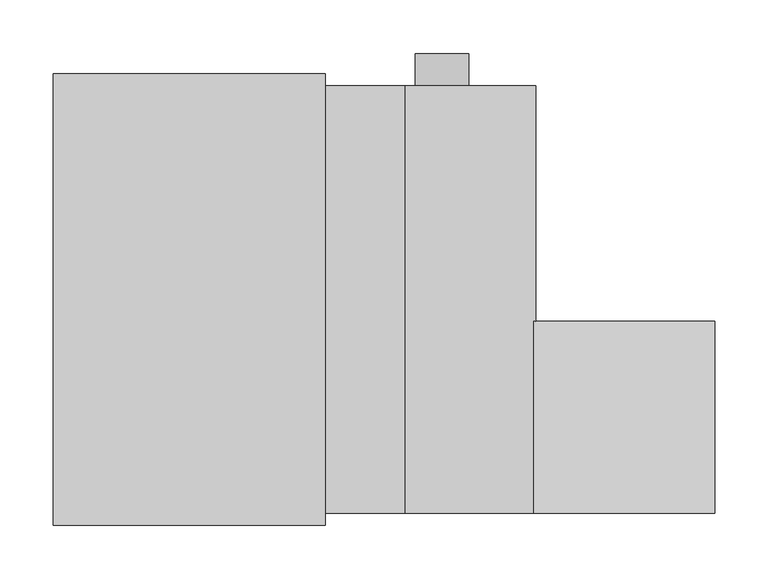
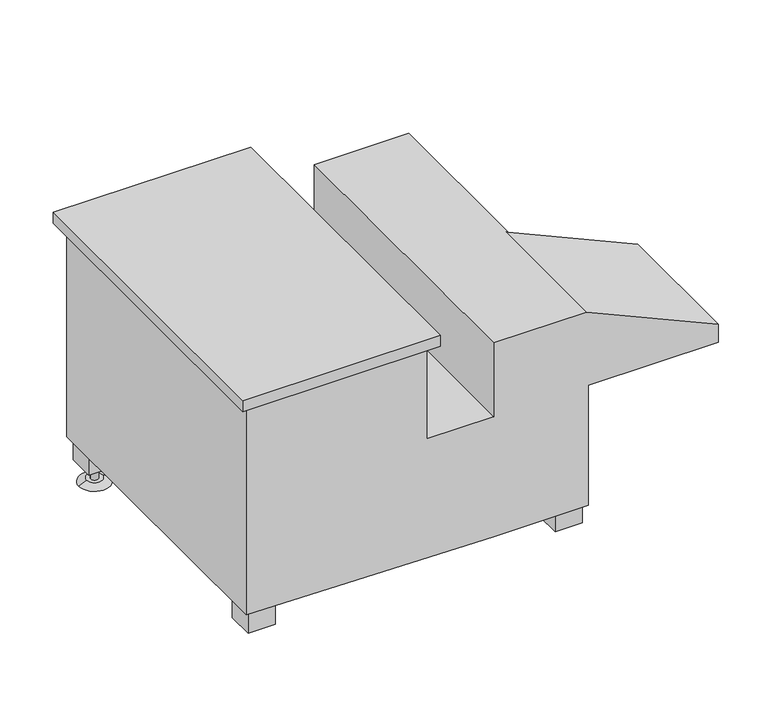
"""IFC4 building model written with IfcOpenShell, lengths in millimetres: unitary equipment geometry, ME_ST_UN_AGC grease capture_ACO : AGC 050 Push-fit HT / ACO pipe (OD 50mm)."""

from ifc_helpers import new_model, si_unit, point, frame, frame_2d, origin, place, context, project, spatial, polyline, circle_curve, trimmed, segment, composite_curve, outline, extrude, source, transform, mapped, element, save
from ifc_brep_helpers import plane_surface, cylinder_surface, revolved_surface, advanced_brep


def unitary_equipment_8320e889(model_context):
    return source(origin(), model_context, "Body", "SolidModel", [
        advanced_brep(
        [(220.0, -200.0, 213.0), (220.0, -200.0, 50.0), (220.0, -22.3913393, 25.0), (220.0, 200.0, 25.0), (220.0, 200.0, 313.5), (220.0, -20.5, 313.5), (220.0, -20.5, 312.6841956), (220.0, -20.5, 213.0), (98.0, -22.3913393, 25.0), (98.0, 200.0, 25.0), (-220.0, 200.0, 55.0), (-220.0, -200.0, 55.0), (-220.0, -200.0, 342.0), (-220.0, 200.0, 342.0), (98.0, -200.0, 50.0), (387.0, -200.0, 213.0), (387.0, -200.0, 238.0), (218.1757942, -200.0, 313.5), (98.0, -200.0, 313.5), (98.0, -200.0, 213.0), (12.0, -200.0, 213.0), (12.0, -200.0, 342.0), (-211.0477339, -195.0, 54.1554466), (-180.0, -195.0, 53.6672747), (-180.0, -177.659288, 51.2264151), (-180.0, -160.0, 51.2264151), (-215.0, -160.0, 54.5283019), (-215.0, -195.0, 54.5283019), (-180.0, 195.0, 51.2264151), (-215.0, 195.0, 54.5283019), (-215.0, 160.0, 54.5283019), (-180.0, 160.0, 51.2264151), (12.0, 200.0, 342.0), (12.0, 200.0, 213.0), (98.0, 200.0, 213.0), (98.0, 200.0, 313.5), (107.0, 200.0, 209.0), (157.0, 200.0, 209.0), (-180.0, -195.0, 25.0), (-215.0, -195.0, 25.0), (-215.0, -160.0, 25.0), (-180.0, -160.0, 25.0), (-180.0, 195.0, 25.0), (-180.0, 160.0, 25.0), (-215.0, 160.0, 25.0), (-215.0, 195.0, 25.0), (180.0, -195.0, 25.0), (180.0, -160.0, 25.0), (215.0, -160.0, 25.0), (215.0, -195.0, 25.0), (215.0, -195.0, 49.2962055), (180.0, -195.0, 49.2962055), (215.0, -160.0, 44.3696439), (180.0, -160.0, 44.3696439), (23.0, 211.0, 357.0), (-231.0, 211.0, 357.0), (-231.0, -211.0, 357.0), (23.0, -211.0, 357.0), (387.0, -20.5, 238.0), (387.0, -20.5, 213.0), (218.1757942, -20.5, 313.5), (23.0, 211.0, 342.0), (23.0, -211.0, 342.0), (-231.0, -211.0, 342.0), (-231.0, 211.0, 342.0), (107.0, 230.0, 209.0), (157.0, 230.0, 209.0)],
        [
            (0, 1),
            (1, 2),
            (2, 3),
            (3, 4),
            (4, 5),
            (5, 6),
            (6, 7),
            (7, 0),
            (2, 8),
            (8, 9),
            (9, 3),
            (10, 11),
            (11, 12),
            (12, 13),
            (13, 10),
            (11, 14),
            (14, 1),
            (0, 15),
            (15, 16),
            (16, 17),
            (17, 18),
            (18, 19),
            (19, 20),
            (20, 21),
            (21, 12),
            (11, 22),
            (22, 23),
            (23, 24),
            (24, 8),
            (8, 14),
            (10, 9),
            (24, 25),
            (25, 26),
            (26, 27),
            (27, 22),
            (28, 29),
            (29, 30),
            (30, 31),
            (31, 28),
            (13, 32),
            (32, 33),
            (33, 34),
            (34, 35),
            (35, 4),
            (36, 37, circle_curve(frame((132.0, 200.0, 209.0), z_axis=(0.0, -1.0, 0.0), x_axis=(1.0, 0.0, 0.0)), 25.0)),
            (37, 36, circle_curve(frame((132.0, 200.0, 209.0), z_axis=(0.0, -1.0, 0.0), x_axis=(1.0, 0.0, 0.0)), 25.0)),
            (33, 20),
            (19, 34),
            (38, 39),
            (39, 40),
            (40, 41),
            (41, 38),
            (42, 43),
            (43, 44),
            (44, 45),
            (45, 42),
            (46, 47),
            (47, 48),
            (48, 49),
            (49, 46),
            (41, 25),
            (23, 38),
            (40, 26),
            (39, 27),
            (45, 29),
            (28, 42),
            (44, 30),
            (43, 31),
            (49, 50),
            (50, 51),
            (51, 46),
            (48, 52),
            (52, 50),
            (47, 53),
            (53, 52),
            (51, 53),
            (54, 55),
            (55, 56),
            (56, 57),
            (57, 54),
            (32, 21),
            (58, 59),
            (59, 7),
            (6, 58),
            (15, 59),
            (58, 16),
            (6, 60),
            (60, 17),
            (60, 5),
            (35, 18),
            (61, 62),
            (62, 63),
            (63, 64),
            (64, 61),
            (54, 61),
            (64, 55),
            (63, 56),
            (62, 57),
            (65, 66, circle_curve(frame((132.0, 230.0, 209.0), z_axis=(0.0, 1.0, 0.0), x_axis=(1.0, 0.0, 0.0)), 25.0)),
            (66, 65, circle_curve(frame((132.0, 230.0, 209.0), z_axis=(0.0, 1.0, 0.0), x_axis=(1.0, 0.0, 0.0)), 25.0)),
            (66, 37),
            (36, 65),
        ],
        [
            plane_surface(frame((220.0, -200.0, 213.0), z_axis=(1.0, 0.0, 0.0), x_axis=(0.0, 0.0, -1.0))),
            plane_surface(frame((220.0, -22.3913393, 25.0), z_axis=(0.0, 0.0, -1.0), x_axis=(-1.0, 0.0, 0.0))),
            plane_surface(frame((-220.0, 0.0, 134.0), z_axis=(-1.0, 0.0, 0.0), x_axis=(0.0, 0.0, -1.0))),
            plane_surface(frame((-220.0, -200.0, 134.0), z_axis=(0.0, -1.0, 0.0), x_axis=(0.0, 0.0, -1.0))),
            plane_surface(frame((-220.0, -200.0, 55.0), z_axis=(-0.015567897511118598, -0.13936796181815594, -0.9901182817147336), x_axis=(0.0, 0.9902382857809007, -0.13938485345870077))),
            plane_surface(frame((-220.0, 0.0, 55.0), z_axis=(-0.09392259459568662, 0.0, -0.9955795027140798), x_axis=(0.0, 1.0, 0.0))),
            plane_surface(frame((-220.0, 200.0, 134.0), z_axis=(0.0, 1.0, 0.0), x_axis=(0.0, 0.0, 1.0))),
            plane_surface(frame((-220.0, 0.0, 213.0), z_axis=(0.0, 0.0, 1.0), x_axis=(0.0, -1.0, 0.0))),
            plane_surface(frame((-180.0, -195.0, 25.0), z_axis=(0.0, 0.0, -1.0), x_axis=(0.0, -1.0, 0.0))),
            plane_surface(frame((-180.0, -195.0, 55.0), z_axis=(1.0, 0.0, 0.0), x_axis=(0.0, 0.0, -1.0))),
            plane_surface(frame((-180.0, -160.0, 55.0), z_axis=(0.0, 1.0, 0.0), x_axis=(0.0, 0.0, -1.0))),
            plane_surface(frame((-215.0, -160.0, 55.0), z_axis=(-1.0, 0.0, 0.0), x_axis=(0.0, 0.0, -1.0))),
            plane_surface(frame((-215.0, -195.0, 55.0), z_axis=(0.0, -1.0, 0.0), x_axis=(0.0, 0.0, -1.0))),
            plane_surface(frame((-180.0, 195.0, 55.0), z_axis=(0.0, 1.0, 0.0), x_axis=(0.0, 0.0, -1.0))),
            plane_surface(frame((-215.0, 195.0, 55.0), z_axis=(-1.0, 0.0, 0.0), x_axis=(0.0, 0.0, -1.0))),
            plane_surface(frame((-215.0, 160.0, 55.0), z_axis=(0.0, -1.0, 0.0), x_axis=(0.0, 0.0, -1.0))),
            plane_surface(frame((-180.0, 160.0, 55.0), z_axis=(1.0, 0.0, 0.0), x_axis=(0.0, 0.0, -1.0))),
            plane_surface(frame((180.0, -195.0, 55.0), z_axis=(0.0, -1.0, 0.0), x_axis=(0.0, 0.0, -1.0))),
            plane_surface(frame((215.0, -195.0, 55.0), z_axis=(1.0, 0.0, 0.0), x_axis=(0.0, 0.0, -1.0))),
            plane_surface(frame((215.0, -160.0, 55.0), z_axis=(0.0, 1.0, 0.0), x_axis=(0.0, 0.0, -1.0))),
            plane_surface(frame((180.0, -160.0, 55.0), z_axis=(-1.0, 0.0, 0.0), x_axis=(0.0, 0.0, -1.0))),
            plane_surface(frame((12.0, -200.0, 357.0), z_axis=(0.0, 0.0, 1.0), x_axis=(0.0, 1.0, 0.0))),
            plane_surface(frame((12.0, -200.0, 213.0), z_axis=(1.0, 0.0, 0.0), x_axis=(0.0, 1.0, 0.0))),
            plane_surface(frame((387.0, -20.5, 238.0), z_axis=(0.0, 1.0, 0.0), x_axis=(0.0, 0.0, -1.0))),
            plane_surface(frame((387.0, -200.0, 213.0), z_axis=(1.0, 0.0, 0.0), x_axis=(0.0, 1.0, 0.0))),
            plane_surface(frame((387.0, -200.0, 238.0), z_axis=(0.408246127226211, 0.0, 0.9128718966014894), x_axis=(0.0, 1.0, 0.0))),
            plane_surface(frame((218.1757942, -200.0, 313.5), z_axis=(0.0, 0.0, 1.0), x_axis=(0.0, 1.0, 0.0))),
            plane_surface(frame((98.0, -200.0, 313.5), z_axis=(-1.0, 0.0, 0.0), x_axis=(0.0, 1.0, 0.0))),
            plane_surface(frame((98.0, -200.0, 213.0), z_axis=(0.0, 0.0, -1.0), x_axis=(0.0, 1.0, 0.0))),
            plane_surface(frame((98.0, -20.5, 313.5), z_axis=(0.0, -1.0, 0.0), x_axis=(-1.0, 0.0, 0.0))),
            plane_surface(frame((220.0, -200.0, 50.0), z_axis=(0.0, -0.13938485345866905, -0.9902382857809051), x_axis=(-1.0, 0.0, 0.0))),
            plane_surface(frame((-231.0, 211.0, 342.0), z_axis=(0.0, 0.0, -1.0), x_axis=(1.0, 0.0, 0.0))),
            plane_surface(frame((23.0, 211.0, 357.0), z_axis=(0.0, 1.0, 0.0), x_axis=(0.0, 0.0, -1.0))),
            plane_surface(frame((-231.0, 211.0, 357.0), z_axis=(-1.0, 0.0, 0.0), x_axis=(0.0, 0.0, -1.0))),
            plane_surface(frame((-231.0, -211.0, 357.0), z_axis=(0.0, -1.0, 0.0), x_axis=(0.0, 0.0, -1.0))),
            plane_surface(frame((23.0, -211.0, 357.0), z_axis=(1.0, 0.0, 0.0), x_axis=(0.0, 0.0, -1.0))),
            plane_surface(frame((157.0, 230.0, 209.0), z_axis=(0.0, 1.0, 0.0), x_axis=(0.0, 0.0, -1.0))),
            cylinder_surface(frame((132.0, 230.0, 209.0), z_axis=(0.0, -1.0, 0.0), x_axis=(1.0, 0.0, 0.0)), 25.0),
        ],
        [
            (0, [[1, 2, 3, 4, 5, 6, 7, 8]]),
            (1, [[-3, 9, 10, 11]]),
            (2, [[12, 13, 14, 15]]),
            (3, [[16, 17, -1, 18, 19, 20, 21, 22, 23, 24, 25, -13]]),
            (4, [[-16, 26, 27, 28, 29, 30]]),
            (5, [[-12, 31, -10, -29, 32, 33, 34, 35, -26], [36, 37, 38, 39]]),
            (6, [[-31, -15, 40, 41, 42, 43, 44, -4, -11], [45, 46]]),
            (7, [[47, -23, 48, -42]]),
            (8, [[49, 50, 51, 52]]),
            (8, [[53, 54, 55, 56]]),
            (8, [[57, 58, 59, 60]]),
            (9, [[-52, 61, -32, -28, 62]]),
            (10, [[-51, 63, -33, -61]]),
            (11, [[-50, 64, -34, -63]]),
            (12, [[-49, -62, -27, -35, -64]]),
            (13, [[-56, 65, -36, 66]]),
            (14, [[-55, 67, -37, -65]]),
            (15, [[-54, 68, -38, -67]]),
            (16, [[-53, -66, -39, -68]]),
            (17, [[-60, 69, 70, 71]]),
            (18, [[-59, 72, 73, -69]]),
            (19, [[-58, 74, 75, -72]]),
            (20, [[-57, -71, 76, -74]]),
            (21, [[77, 78, 79, 80]]),
            (22, [[-47, -41, 81, -24]]),
            (23, [[82, 83, -7, 84]]),
            (24, [[-19, 85, -82, 86]]),
            (25, [[-20, -86, -84, 87, 88]]),
            (26, [[-21, -88, 89, -5, -44, 90]]),
            (27, [[-22, -90, -43, -48]]),
            (28, [[-85, -18, -8, -83]]),
            (29, [[-89, -87, -6]]),
            (30, [[-2, -17, -30, -9], [-70, -73, -75, -76]]),
            (31, [[91, 92, 93, 94], [-14, -25, -81, -40]]),
            (32, [[-77, 95, -94, 96]]),
            (33, [[-78, -96, -93, 97]]),
            (34, [[-79, -97, -92, 98]]),
            (35, [[-80, -98, -91, -95]]),
            (36, [[99, 100]]),
            (37, [[-100, 101, -45, 102]]),
            (37, [[-99, -102, -46, -101]]),
        ],
    ),
        extrude(outline(composite_curve([segment(trimmed(circle_curve(frame_2d((-197.5, 177.5)), 5.0), [point((-202.5, 177.5))], [point((-192.5, 177.5))], False, "CARTESIAN"), True, "CONTINUOUS"), segment(trimmed(circle_curve(frame_2d((-197.5, 177.5)), 5.0), [point((-192.5, 177.5))], [point((-202.5, 177.5))], False, "CARTESIAN"), True, "CONTINUOUS")], self_intersect=False)), frame((0.0, 0.0, 5.0), z_axis=(0.0, 0.0, 1.0), x_axis=(1.0, 0.0, 0.0)), (0.0, 0.0, 1.0), 20.0),
        advanced_brep(
        [(-207.5, 177.5, 5.0), (-187.5, 177.5, 5.0), (-217.5, 177.5, 0.0), (-177.5, 177.5, 0.0)],
        [
            (0, 1, circle_curve(frame((-197.5, 177.5, 5.0), z_axis=(6.003144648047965e-12, 0.0, 1.0), x_axis=(-1.0, 0.0, 6.003139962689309e-12)), 10.0)),
            (1, 0, circle_curve(frame((-197.5, 177.5, 5.0), z_axis=(6.003144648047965e-12, 0.0, 1.0), x_axis=(1.0, 0.0, -6.003139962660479e-12)), 10.0)),
            (2, 3, circle_curve(frame((-197.5, 177.5, 0.0), z_axis=(-6.003144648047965e-12, 0.0, -1.0), x_axis=(1.0, 0.0, -6.003139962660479e-12)), 20.0)),
            (3, 2, circle_curve(frame((-197.5, 177.5, 0.0), z_axis=(-6.003144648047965e-12, 0.0, -1.0), x_axis=(-1.0, 0.0, 6.003139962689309e-12)), 20.0)),
            (3, 1),
            (0, 2),
        ],
        [
            plane_surface(frame((-197.5, 177.5, 5.0), z_axis=(0.0, 0.0, 1.0), x_axis=(0.0, -1.0, 0.0))),
            plane_surface(frame((-197.5, 177.5, 0.0), z_axis=(0.0, 0.0, -1.0), x_axis=(0.0, -1.0, 0.0))),
            revolved_surface(polyline([(-207.49999999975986, 177.5, 5.000000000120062), (-217.5, 177.5, 0.0)]), (-197.5, 177.5, 10.0), (-6.003144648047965e-12, 0.0, -1.0)),
            revolved_surface(polyline([(-187.5, 177.5, 5.0), (-177.49999999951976, 177.5, -2.4012436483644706e-10)]), (-197.5, 177.5, 10.0), (-6.003144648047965e-12, 0.0, -1.0)),
        ],
        [
            (0, [[1, 2]]),
            (1, [[3, 4]]),
            (2, [[-4, 5, -1, 6]]),
            (3, [[-3, -6, -2, -5]]),
        ],
    ),
    ])


if __name__ == "__main__":
    model = new_model("IFC4")
    model_context = context("Model", 3, world=origin())
    ifc_project = project(units=[si_unit("LENGTHUNIT", "METRE", prefix="MILLI")], contexts=[model_context])
    site = spatial("IfcSite", under=ifc_project)
    building = spatial("IfcBuilding", under=site)
    placement = place(None, origin())
    unitary_equipment_shape = unitary_equipment_8320e889(model_context)
    element("IfcUnitaryEquipment", 1, ObjectType="ME_ST_UN_AGC grease capture_ACO : AGC 050 Push-fit HT / ACO pipe (OD 50mm)", at=placement, inside=building, context=model_context, shape_type="MappedRepresentation", body=[
        mapped(unitary_equipment_shape, transform((0.0, 0.0, 0.0), x_axis=(1.0, 0.0, 0.0), y_axis=(0.0, 1.0, 0.0), z_axis=(0.0, 0.0, 1.0))),
    ])
    save(model, "model.ifc")
